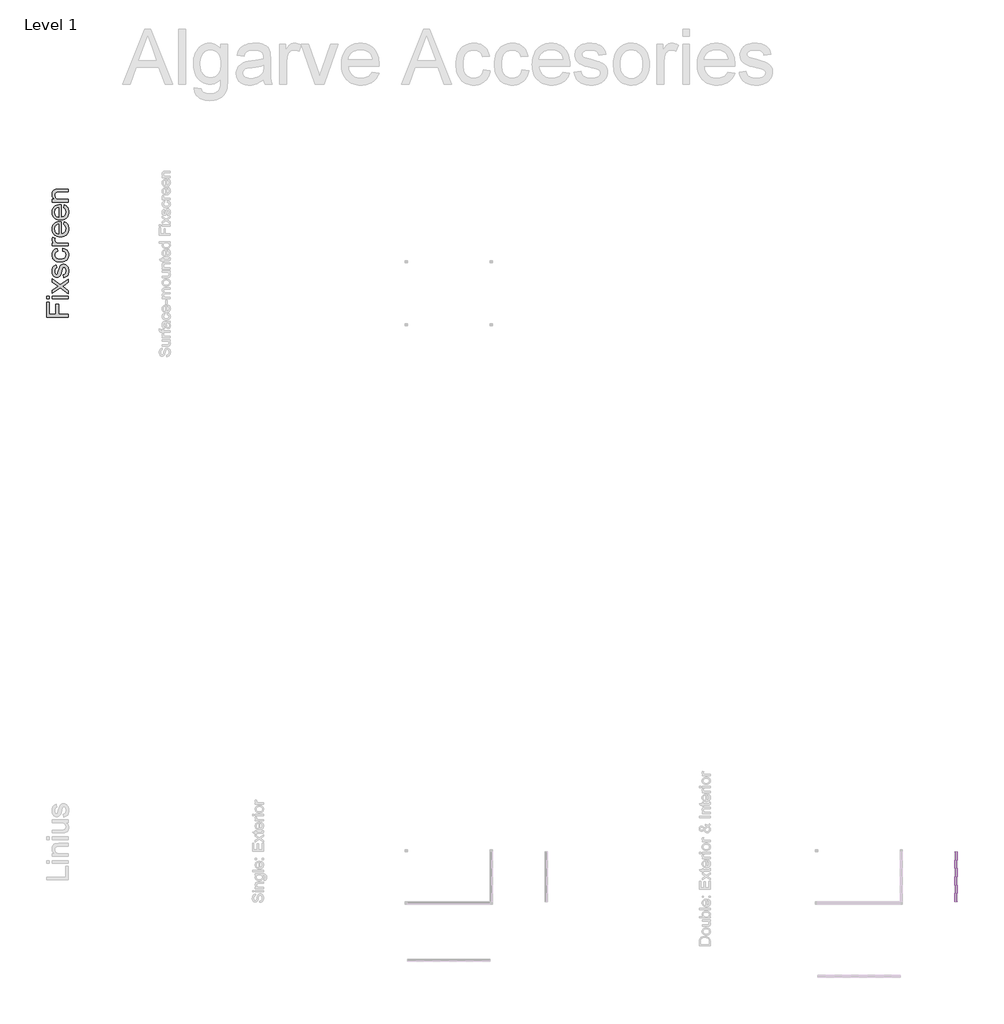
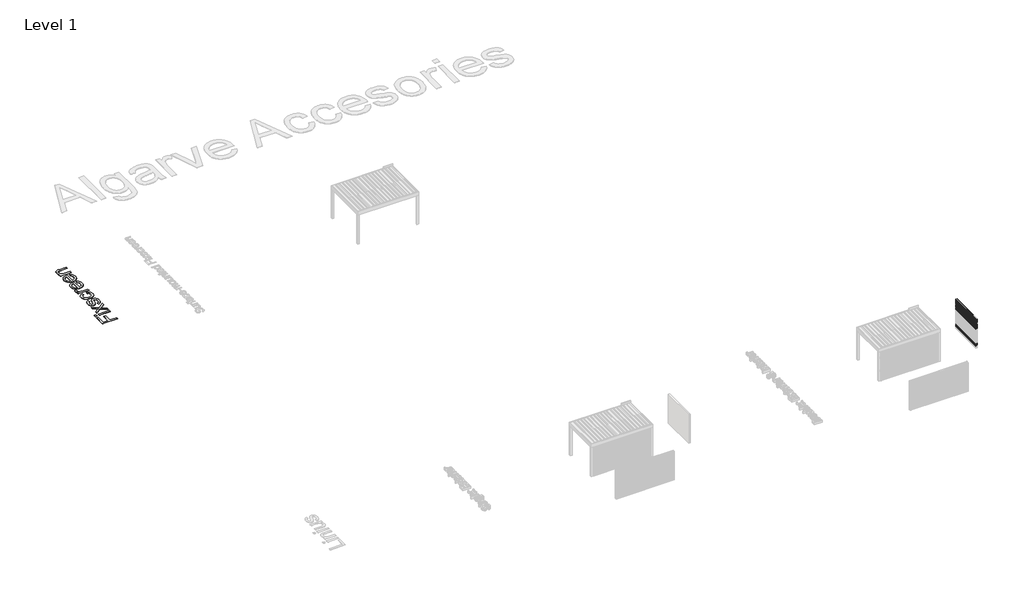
# One storey, part 45 of 47: 47 proxies.
"""IFC4 building model written with IfcOpenShell, lengths in millimetres."""

from ifc_helpers import new_model, si_unit, frame, origin, origin_with_axes, place, context, project, spatial, polyline, outline, extrude, element, save

model = new_model("IFC4")

# Units and contexts
model_context = context("Model", 3, world=origin())
ifc_project = project(units=[si_unit("LENGTHUNIT", "METRE", prefix="MILLI")], contexts=[model_context])

# Site, building, storey
site = spatial("IfcSite", under=ifc_project)
building = spatial("IfcBuilding", under=site)
storey = spatial("IfcBuildingStorey", under=building, Name="Level 1", Elevation=0.0)

# Proxies
placement = place(None, origin())
element("IfcBuildingElementProxy", 1, Name="Wall Sweeps", at=placement, inside=storey, context=model_context, shape_type="SweptSolid", body=[
    extrude(outline(polyline([(109.3, 211574.3971432), (95.8, 211574.3971432), (96.5216933, 211575.6471432), (108.5782281, 211575.6471432), (119.6345698, 211594.7971432), (133.3, 211594.7971432), (133.3, 211593.5471432), (120.3562577, 211593.5471432), (109.3, 211574.3971432)])), frame((0.0, 39632.1593685, 0.0), z_axis=(0.0, 1.0, 0.0), x_axis=(0.0, 0.0, 1.0)), (0.0, 0.0, 1.0), 2280.0),
])
element("IfcBuildingElementProxy", 2, Name="Wall Sweeps", at=placement, inside=storey, context=model_context, shape_type="SweptSolid", body=[
    extrude(outline(polyline([(1309.2, 211574.3971432), (1295.7, 211574.3971432), (1296.4216933, 211575.6471432), (1308.4782281, 211575.6471432), (1319.5345698, 211594.7971432), (1333.2, 211594.7971432), (1333.2, 211593.5471432), (1320.2562577, 211593.5471432), (1309.2, 211574.3971432)])), frame((0.0, 39632.1593685, 0.0), z_axis=(0.0, 1.0, 0.0), x_axis=(0.0, 0.0, 1.0)), (0.0, 0.0, 1.0), 2280.0),
])
element("IfcBuildingElementProxy", 3, Name="Wall Sweeps", at=placement, inside=storey, context=model_context, shape_type="SweptSolid", body=[
    extrude(outline(polyline([(1341.3, 211684.3971432), (1352.3562577, 211665.2471432), (1365.3, 211665.2471432), (1365.3, 211663.9971432), (1351.6345698, 211663.9971432), (1340.5782281, 211683.1471432), (1328.5216933, 211683.1471432), (1327.8, 211684.3971432), (1341.3, 211684.3971432)])), frame((0.0, 39632.1593685, 0.0), z_axis=(0.0, 1.0, 0.0), x_axis=(0.0, 0.0, 1.0)), (0.0, 0.0, 1.0), 2280.0),
])
element("IfcBuildingElementProxy", 4, Name="Wall Sweeps", at=placement, inside=storey, context=model_context, shape_type="SweptSolid", body=[
    extrude(outline(polyline([(1342.5, 211574.3971432), (1329.0, 211574.3971432), (1329.7216933, 211575.6471432), (1341.7782281, 211575.6471432), (1352.8345698, 211594.7971432), (1366.5, 211594.7971432), (1366.5, 211593.5471432), (1353.5562577, 211593.5471432), (1342.5, 211574.3971432)])), frame((0.0, 39632.1593685, 0.0), z_axis=(0.0, 1.0, 0.0), x_axis=(0.0, 0.0, 1.0)), (0.0, 0.0, 1.0), 2280.0),
])
element("IfcBuildingElementProxy", 5, Name="Wall Sweeps", at=placement, inside=storey, context=model_context, shape_type="SweptSolid", body=[
    extrude(outline(polyline([(1374.6, 211684.3971432), (1385.6562577, 211665.2471432), (1398.6, 211665.2471432), (1398.6, 211663.9971432), (1384.9345698, 211663.9971432), (1373.8782281, 211683.1471432), (1361.8216933, 211683.1471432), (1361.1, 211684.3971432), (1374.6, 211684.3971432)])), frame((0.0, 39632.1593685, 0.0), z_axis=(0.0, 1.0, 0.0), x_axis=(0.0, 0.0, 1.0)), (0.0, 0.0, 1.0), 2280.0),
])
element("IfcBuildingElementProxy", 6, Name="Wall Sweeps", at=placement, inside=storey, context=model_context, shape_type="SweptSolid", body=[
    extrude(outline(polyline([(1375.9, 211574.3971432), (1362.4, 211574.3971432), (1363.1216933, 211575.6471432), (1375.1782281, 211575.6471432), (1386.2345698, 211594.7971432), (1399.9, 211594.7971432), (1399.9, 211593.5471432), (1386.9562577, 211593.5471432), (1375.9, 211574.3971432)])), frame((0.0, 39632.1593685, 0.0), z_axis=(0.0, 1.0, 0.0), x_axis=(0.0, 0.0, 1.0)), (0.0, 0.0, 1.0), 2280.0),
])
element("IfcBuildingElementProxy", 7, Name="Wall Sweeps", at=placement, inside=storey, context=model_context, shape_type="SweptSolid", body=[
    extrude(outline(polyline([(1407.9, 211684.3971432), (1418.9562577, 211665.2471432), (1431.9, 211665.2471432), (1431.9, 211663.9971432), (1418.2345698, 211663.9971432), (1407.1782281, 211683.1471432), (1395.1216933, 211683.1471432), (1394.4, 211684.3971432), (1407.9, 211684.3971432)])), frame((0.0, 39632.1593685, 0.0), z_axis=(0.0, 1.0, 0.0), x_axis=(0.0, 0.0, 1.0)), (0.0, 0.0, 1.0), 2280.0),
])
element("IfcBuildingElementProxy", 8, Name="Wall Sweeps", at=placement, inside=storey, context=model_context, shape_type="SweptSolid", body=[
    extrude(outline(polyline([(1441.2, 211684.3971432), (1452.2562577, 211665.2471432), (1465.2, 211665.2471432), (1465.2, 211663.9971432), (1451.5345698, 211663.9971432), (1440.4782281, 211683.1471432), (1428.4216933, 211683.1471432), (1427.7, 211684.3971432), (1441.2, 211684.3971432)])), frame((0.0, 39632.1593685, 0.0), z_axis=(0.0, 1.0, 0.0), x_axis=(0.0, 0.0, 1.0)), (0.0, 0.0, 1.0), 2280.0),
])
element("IfcBuildingElementProxy", 9, Name="Wall Sweeps", at=placement, inside=storey, context=model_context, shape_type="SweptSolid", body=[
    extrude(outline(polyline([(1442.5, 211574.3971432), (1429.0, 211574.3971432), (1429.7216933, 211575.6471432), (1441.7782281, 211575.6471432), (1452.8345698, 211594.7971432), (1466.5, 211594.7971432), (1466.5, 211593.5471432), (1453.5562577, 211593.5471432), (1442.5, 211574.3971432)])), frame((0.0, 39632.1593685, 0.0), z_axis=(0.0, 1.0, 0.0), x_axis=(0.0, 0.0, 1.0)), (0.0, 0.0, 1.0), 2280.0),
])
element("IfcBuildingElementProxy", 10, Name="Wall Sweeps", at=placement, inside=storey, context=model_context, shape_type="SweptSolid", body=[
    extrude(outline(polyline([(1474.5, 211684.3971432), (1485.5562577, 211665.2471432), (1498.5, 211665.2471432), (1498.5, 211663.9971432), (1484.8345698, 211663.9971432), (1473.7782281, 211683.1471432), (1461.7216933, 211683.1471432), (1461.0, 211684.3971432), (1474.5, 211684.3971432)])), frame((0.0, 39632.1593685, 0.0), z_axis=(0.0, 1.0, 0.0), x_axis=(0.0, 0.0, 1.0)), (0.0, 0.0, 1.0), 2280.0),
])
element("IfcBuildingElementProxy", 11, Name="Wall Sweeps", at=placement, inside=storey, context=model_context, shape_type="SweptSolid", body=[
    extrude(outline(polyline([(1474.5, 211574.3971432), (1461.0, 211574.3971432), (1461.7216933, 211575.6471432), (1473.7782281, 211575.6471432), (1484.8345698, 211594.7971432), (1498.5, 211594.7971432), (1498.5, 211593.5471432), (1485.5562577, 211593.5471432), (1474.5, 211574.3971432)])), frame((0.0, 39632.1593685, 0.0), z_axis=(0.0, 1.0, 0.0), x_axis=(0.0, 0.0, 1.0)), (0.0, 0.0, 1.0), 2280.0),
])
element("IfcBuildingElementProxy", 12, Name="Wall Sweeps", at=placement, inside=storey, context=model_context, shape_type="SweptSolid", body=[
    extrude(outline(polyline([(1507.8, 211684.3971432), (1518.8562577, 211665.2471432), (1531.8, 211665.2471432), (1531.8, 211663.9971432), (1518.1345698, 211663.9971432), (1507.0782281, 211683.1471432), (1495.0216933, 211683.1471432), (1494.3, 211684.3971432), (1507.8, 211684.3971432)])), frame((0.0, 39632.1593685, 0.0), z_axis=(0.0, 1.0, 0.0), x_axis=(0.0, 0.0, 1.0)), (0.0, 0.0, 1.0), 2280.0),
])
element("IfcBuildingElementProxy", 13, Name="Wall Sweeps", at=placement, inside=storey, context=model_context, shape_type="SweptSolid", body=[
    extrude(outline(polyline([(1507.8, 211574.3971432), (1494.3, 211574.3971432), (1495.0216933, 211575.6471432), (1507.0782281, 211575.6471432), (1518.1345698, 211594.7971432), (1531.8, 211594.7971432), (1531.8, 211593.5471432), (1518.8562577, 211593.5471432), (1507.8, 211574.3971432)])), frame((0.0, 39632.1593685, 0.0), z_axis=(0.0, 1.0, 0.0), x_axis=(0.0, 0.0, 1.0)), (0.0, 0.0, 1.0), 2280.0),
])
element("IfcBuildingElementProxy", 14, Name="Wall Sweeps", at=placement, inside=storey, context=model_context, shape_type="SweptSolid", body=[
    extrude(outline(polyline([(1541.1, 211684.3971432), (1552.1562577, 211665.2471432), (1565.1, 211665.2471432), (1565.1, 211663.9971432), (1551.4345698, 211663.9971432), (1540.3782281, 211683.1471432), (1528.3216933, 211683.1471432), (1527.6, 211684.3971432), (1541.1, 211684.3971432)])), frame((0.0, 39632.1593685, 0.0), z_axis=(0.0, 1.0, 0.0), x_axis=(0.0, 0.0, 1.0)), (0.0, 0.0, 1.0), 2280.0),
])
element("IfcBuildingElementProxy", 15, Name="Wall Sweeps", at=placement, inside=storey, context=model_context, shape_type="SweptSolid", body=[
    extrude(outline(polyline([(1541.1, 211574.3971432), (1527.6, 211574.3971432), (1528.3216933, 211575.6471432), (1540.3782281, 211575.6471432), (1551.4345698, 211594.7971432), (1565.1, 211594.7971432), (1565.1, 211593.5471432), (1552.1562577, 211593.5471432), (1541.1, 211574.3971432)])), frame((0.0, 39632.1593685, 0.0), z_axis=(0.0, 1.0, 0.0), x_axis=(0.0, 0.0, 1.0)), (0.0, 0.0, 1.0), 2280.0),
])
element("IfcBuildingElementProxy", 16, Name="Wall Sweeps", at=placement, inside=storey, context=model_context, shape_type="SweptSolid", body=[
    extrude(outline(polyline([(1574.4, 211684.3971432), (1585.4562577, 211665.2471432), (1598.4, 211665.2471432), (1598.4, 211663.9971432), (1584.7345698, 211663.9971432), (1573.6782281, 211683.1471432), (1561.6216933, 211683.1471432), (1560.9, 211684.3971432), (1574.4, 211684.3971432)])), frame((0.0, 39632.1593685, 0.0), z_axis=(0.0, 1.0, 0.0), x_axis=(0.0, 0.0, 1.0)), (0.0, 0.0, 1.0), 2280.0),
])
element("IfcBuildingElementProxy", 17, Name="Wall Sweeps", at=placement, inside=storey, context=model_context, shape_type="SweptSolid", body=[
    extrude(outline(polyline([(1574.4, 211574.3971432), (1560.9, 211574.3971432), (1561.6216933, 211575.6471432), (1573.6782281, 211575.6471432), (1584.7345698, 211594.7971432), (1598.4, 211594.7971432), (1598.4, 211593.5471432), (1585.4562577, 211593.5471432), (1574.4, 211574.3971432)])), frame((0.0, 39632.1593685, 0.0), z_axis=(0.0, 1.0, 0.0), x_axis=(0.0, 0.0, 1.0)), (0.0, 0.0, 1.0), 2280.0),
])
element("IfcBuildingElementProxy", 18, Name="Wall Sweeps", at=placement, inside=storey, context=model_context, shape_type="SweptSolid", body=[
    extrude(outline(polyline([(1607.7, 211684.3971432), (1618.7562577, 211665.2471432), (1631.7, 211665.2471432), (1631.7, 211663.9971432), (1618.0345698, 211663.9971432), (1606.9782281, 211683.1471432), (1594.9216933, 211683.1471432), (1594.2, 211684.3971432), (1607.7, 211684.3971432)])), frame((0.0, 39632.1593685, 0.0), z_axis=(0.0, 1.0, 0.0), x_axis=(0.0, 0.0, 1.0)), (0.0, 0.0, 1.0), 2280.0),
])
element("IfcBuildingElementProxy", 19, Name="Wall Sweeps", at=placement, inside=storey, context=model_context, shape_type="SweptSolid", body=[
    extrude(outline(polyline([(1607.7, 211574.3971432), (1594.2, 211574.3971432), (1594.9216933, 211575.6471432), (1606.9782281, 211575.6471432), (1618.0345698, 211594.7971432), (1631.7, 211594.7971432), (1631.7, 211593.5471432), (1618.7562577, 211593.5471432), (1607.7, 211574.3971432)])), frame((0.0, 39632.1593685, 0.0), z_axis=(0.0, 1.0, 0.0), x_axis=(0.0, 0.0, 1.0)), (0.0, 0.0, 1.0), 2280.0),
])
element("IfcBuildingElementProxy", 20, Name="Wall Sweeps", at=placement, inside=storey, context=model_context, shape_type="SweptSolid", body=[
    extrude(outline(polyline([(142.7, 211574.3971432), (129.2, 211574.3971432), (129.9216933, 211575.6471432), (141.9782281, 211575.6471432), (153.0345698, 211594.7971432), (166.7, 211594.7971432), (166.7, 211593.5471432), (153.7562577, 211593.5471432), (142.7, 211574.3971432)])), frame((0.0, 39632.1593685, 0.0), z_axis=(0.0, 1.0, 0.0), x_axis=(0.0, 0.0, 1.0)), (0.0, 0.0, 1.0), 2280.0),
])
element("IfcBuildingElementProxy", 21, Name="Wall Sweeps", at=placement, inside=storey, context=model_context, shape_type="SweptSolid", body=[
    extrude(outline(polyline([(1674.3, 211684.3971432), (1685.3562577, 211665.2471432), (1698.3, 211665.2471432), (1698.3, 211663.9971432), (1684.6345698, 211663.9971432), (1673.5782281, 211683.1471432), (1661.5216933, 211683.1471432), (1660.8, 211684.3971432), (1674.3, 211684.3971432)])), frame((0.0, 39632.1593685, 0.0), z_axis=(0.0, 1.0, 0.0), x_axis=(0.0, 0.0, 1.0)), (0.0, 0.0, 1.0), 2280.0),
])
element("IfcBuildingElementProxy", 22, Name="Wall Sweeps", at=placement, inside=storey, context=model_context, shape_type="SweptSolid", body=[
    extrude(outline(polyline([(1674.3, 211574.3971432), (1660.8, 211574.3971432), (1661.5216933, 211575.6471432), (1673.5782281, 211575.6471432), (1684.6345698, 211594.7971432), (1698.3, 211594.7971432), (1698.3, 211593.5471432), (1685.3562577, 211593.5471432), (1674.3, 211574.3971432)])), frame((0.0, 39632.1593685, 0.0), z_axis=(0.0, 1.0, 0.0), x_axis=(0.0, 0.0, 1.0)), (0.0, 0.0, 1.0), 2280.0),
])
element("IfcBuildingElementProxy", 23, Name="Wall Sweeps", at=placement, inside=storey, context=model_context, shape_type="SweptSolid", body=[
    extrude(outline(polyline([(1707.7, 211574.3971432), (1694.2, 211574.3971432), (1694.9216933, 211575.6471432), (1706.9782281, 211575.6471432), (1718.0345698, 211594.7971432), (1731.7, 211594.7971432), (1731.7, 211593.5471432), (1718.7562577, 211593.5471432), (1707.7, 211574.3971432)])), frame((0.0, 39632.1593685, 0.0), z_axis=(0.0, 1.0, 0.0), x_axis=(0.0, 0.0, 1.0)), (0.0, 0.0, 1.0), 2280.0),
])
element("IfcBuildingElementProxy", 24, Name="Wall Sweeps", at=placement, inside=storey, context=model_context, shape_type="SweptSolid", body=[
    extrude(outline(polyline([(1740.9, 211684.3971432), (1751.9562577, 211665.2471432), (1764.9, 211665.2471432), (1764.9, 211663.9971432), (1751.2345698, 211663.9971432), (1740.1782281, 211683.1471432), (1728.1216933, 211683.1471432), (1727.4, 211684.3971432), (1740.9, 211684.3971432)])), frame((0.0, 39632.1593685, 0.0), z_axis=(0.0, 1.0, 0.0), x_axis=(0.0, 0.0, 1.0)), (0.0, 0.0, 1.0), 2280.0),
])
element("IfcBuildingElementProxy", 25, Name="Wall Sweeps", at=placement, inside=storey, context=model_context, shape_type="SweptSolid", body=[
    extrude(outline(polyline([(1740.9, 211574.3971432), (1727.4, 211574.3971432), (1728.1216933, 211575.6471432), (1740.1782281, 211575.6471432), (1751.2345698, 211594.7971432), (1764.9, 211594.7971432), (1764.9, 211593.5471432), (1751.9562577, 211593.5471432), (1740.9, 211574.3971432)])), frame((0.0, 39632.1593685, 0.0), z_axis=(0.0, 1.0, 0.0), x_axis=(0.0, 0.0, 1.0)), (0.0, 0.0, 1.0), 2280.0),
])
element("IfcBuildingElementProxy", 26, Name="Wall Sweeps", at=placement, inside=storey, context=model_context, shape_type="SweptSolid", body=[
    extrude(outline(polyline([(1774.2, 211684.3971432), (1785.2562577, 211665.2471432), (1798.2, 211665.2471432), (1798.2, 211663.9971432), (1784.5345698, 211663.9971432), (1773.4782281, 211683.1471432), (1761.4216933, 211683.1471432), (1760.7, 211684.3971432), (1774.2, 211684.3971432)])), frame((0.0, 39632.1593685, 0.0), z_axis=(0.0, 1.0, 0.0), x_axis=(0.0, 0.0, 1.0)), (0.0, 0.0, 1.0), 2280.0),
])
element("IfcBuildingElementProxy", 27, Name="Wall Sweeps", at=placement, inside=storey, context=model_context, shape_type="SweptSolid", body=[
    extrude(outline(polyline([(1774.2, 211574.3971432), (1760.7, 211574.3971432), (1761.4216933, 211575.6471432), (1773.4782281, 211575.6471432), (1784.5345698, 211594.7971432), (1798.2, 211594.7971432), (1798.2, 211593.5471432), (1785.2562577, 211593.5471432), (1774.2, 211574.3971432)])), frame((0.0, 39632.1593685, 0.0), z_axis=(0.0, 1.0, 0.0), x_axis=(0.0, 0.0, 1.0)), (0.0, 0.0, 1.0), 2280.0),
])
element("IfcBuildingElementProxy", 28, Name="Wall Sweeps", at=placement, inside=storey, context=model_context, shape_type="SweptSolid", body=[
    extrude(outline(polyline([(1807.5, 211684.3971432), (1818.5562577, 211665.2471432), (1831.5, 211665.2471432), (1831.5, 211663.9971432), (1817.8345698, 211663.9971432), (1806.7782281, 211683.1471432), (1794.7216933, 211683.1471432), (1794.0, 211684.3971432), (1807.5, 211684.3971432)])), frame((0.0, 39632.1593685, 0.0), z_axis=(0.0, 1.0, 0.0), x_axis=(0.0, 0.0, 1.0)), (0.0, 0.0, 1.0), 2280.0),
])
element("IfcBuildingElementProxy", 29, Name="Wall Sweeps", at=placement, inside=storey, context=model_context, shape_type="SweptSolid", body=[
    extrude(outline(polyline([(1807.5, 211574.3971432), (1794.0, 211574.3971432), (1794.7216933, 211575.6471432), (1806.7782281, 211575.6471432), (1817.8345698, 211594.7971432), (1831.5, 211594.7971432), (1831.5, 211593.5471432), (1818.5562577, 211593.5471432), (1807.5, 211574.3971432)])), frame((0.0, 39632.1593685, 0.0), z_axis=(0.0, 1.0, 0.0), x_axis=(0.0, 0.0, 1.0)), (0.0, 0.0, 1.0), 2280.0),
])
element("IfcBuildingElementProxy", 30, Name="Wall Sweeps", at=placement, inside=storey, context=model_context, shape_type="SweptSolid", body=[
    extrude(outline(polyline([(1840.8, 211684.3971432), (1851.8562577, 211665.2471432), (1864.8, 211665.2471432), (1864.8, 211663.9971432), (1851.1345698, 211663.9971432), (1840.0782281, 211683.1471432), (1828.0216933, 211683.1471432), (1827.3, 211684.3971432), (1840.8, 211684.3971432)])), frame((0.0, 39632.1593685, 0.0), z_axis=(0.0, 1.0, 0.0), x_axis=(0.0, 0.0, 1.0)), (0.0, 0.0, 1.0), 2280.0),
])
element("IfcBuildingElementProxy", 31, Name="Wall Sweeps", at=placement, inside=storey, context=model_context, shape_type="SweptSolid", body=[
    extrude(outline(polyline([(1840.8, 211574.3971432), (1827.3, 211574.3971432), (1828.0216933, 211575.6471432), (1840.0782281, 211575.6471432), (1851.1345698, 211594.7971432), (1864.8, 211594.7971432), (1864.8, 211593.5471432), (1851.8562577, 211593.5471432), (1840.8, 211574.3971432)])), frame((0.0, 39632.1593685, 0.0), z_axis=(0.0, 1.0, 0.0), x_axis=(0.0, 0.0, 1.0)), (0.0, 0.0, 1.0), 2280.0),
])
element("IfcBuildingElementProxy", 32, Name="Wall Sweeps", at=placement, inside=storey, context=model_context, shape_type="SweptSolid", body=[
    extrude(outline(polyline([(1874.1, 211684.3971432), (1885.1562577, 211665.2471432), (1898.1, 211665.2471432), (1898.1, 211663.9971432), (1884.4345698, 211663.9971432), (1873.3782281, 211683.1471432), (1861.3216933, 211683.1471432), (1860.6, 211684.3971432), (1874.1, 211684.3971432)])), frame((0.0, 39632.1593685, 0.0), z_axis=(0.0, 1.0, 0.0), x_axis=(0.0, 0.0, 1.0)), (0.0, 0.0, 1.0), 2280.0),
])
element("IfcBuildingElementProxy", 33, Name="Wall Sweeps", at=placement, inside=storey, context=model_context, shape_type="SweptSolid", body=[
    extrude(outline(polyline([(1874.1, 211574.3971432), (1860.6, 211574.3971432), (1861.3216933, 211575.6471432), (1873.3782281, 211575.6471432), (1884.4345698, 211594.7971432), (1898.1, 211594.7971432), (1898.1, 211593.5471432), (1885.1562577, 211593.5471432), (1874.1, 211574.3971432)])), frame((0.0, 39632.1593685, 0.0), z_axis=(0.0, 1.0, 0.0), x_axis=(0.0, 0.0, 1.0)), (0.0, 0.0, 1.0), 2280.0),
])
element("IfcBuildingElementProxy", 34, Name="Wall Sweeps", at=placement, inside=storey, context=model_context, shape_type="SweptSolid", body=[
    extrude(outline(polyline([(1907.4, 211684.3971432), (1918.4562577, 211665.2471432), (1931.4, 211665.2471432), (1931.4, 211663.9971432), (1917.7345698, 211663.9971432), (1906.6782281, 211683.1471432), (1894.6216933, 211683.1471432), (1893.9, 211684.3971432), (1907.4, 211684.3971432)])), frame((0.0, 39632.1593685, 0.0), z_axis=(0.0, 1.0, 0.0), x_axis=(0.0, 0.0, 1.0)), (0.0, 0.0, 1.0), 2280.0),
])
element("IfcBuildingElementProxy", 35, Name="Wall Sweeps", at=placement, inside=storey, context=model_context, shape_type="SweptSolid", body=[
    extrude(outline(polyline([(1907.4, 211574.3971432), (1893.9, 211574.3971432), (1894.6216933, 211575.6471432), (1906.6782281, 211575.6471432), (1917.7345698, 211594.7971432), (1931.4, 211594.7971432), (1931.4, 211593.5471432), (1918.4562577, 211593.5471432), (1907.4, 211574.3971432)])), frame((0.0, 39632.1593685, 0.0), z_axis=(0.0, 1.0, 0.0), x_axis=(0.0, 0.0, 1.0)), (0.0, 0.0, 1.0), 2280.0),
])
element("IfcBuildingElementProxy", 36, Name="Wall Sweeps", at=placement, inside=storey, context=model_context, shape_type="SweptSolid", body=[
    extrude(outline(polyline([(1940.7, 211684.3971432), (1951.7562577, 211665.2471432), (1964.7, 211665.2471432), (1964.7, 211663.9971432), (1951.0345698, 211663.9971432), (1939.9782281, 211683.1471432), (1927.9216933, 211683.1471432), (1927.2, 211684.3971432), (1940.7, 211684.3971432)])), frame((0.0, 39632.1593685, 0.0), z_axis=(0.0, 1.0, 0.0), x_axis=(0.0, 0.0, 1.0)), (0.0, 0.0, 1.0), 2280.0),
])
element("IfcBuildingElementProxy", 37, Name="Wall Sweeps", at=placement, inside=storey, context=model_context, shape_type="SweptSolid", body=[
    extrude(outline(polyline([(1940.7, 211575.3971432), (1927.2, 211575.3971432), (1927.9216933, 211576.6471432), (1939.9782281, 211576.6471432), (1951.0345698, 211595.7971432), (1964.7, 211595.7971432), (1964.7, 211594.5471432), (1951.7562577, 211594.5471432), (1940.7, 211575.3971432)])), frame((0.0, 39632.1593685, 0.0), z_axis=(0.0, 1.0, 0.0), x_axis=(0.0, 0.0, 1.0)), (0.0, 0.0, 1.0), 2280.0),
])
element("IfcBuildingElementProxy", 38, Name="Wall Sweeps", at=placement, inside=storey, context=model_context, shape_type="SweptSolid", body=[
    extrude(outline(polyline([(1974.0, 211684.3971432), (1985.0562577, 211665.2471432), (1998.0, 211665.2471432), (1998.0, 211663.9971432), (1984.3345698, 211663.9971432), (1973.2782281, 211683.1471432), (1961.2216933, 211683.1471432), (1960.5, 211684.3971432), (1974.0, 211684.3971432)])), frame((0.0, 39632.1593685, 0.0), z_axis=(0.0, 1.0, 0.0), x_axis=(0.0, 0.0, 1.0)), (0.0, 0.0, 1.0), 2280.0),
])
element("IfcBuildingElementProxy", 39, Name="Wall Sweeps", at=placement, inside=storey, context=model_context, shape_type="SweptSolid", body=[
    extrude(outline(polyline([(1974.0, 211574.3971432), (1960.5, 211574.3971432), (1961.2216933, 211575.6471432), (1973.2782281, 211575.6471432), (1984.3345698, 211594.7971432), (1998.0, 211594.7971432), (1998.0, 211593.5471432), (1985.0562577, 211593.5471432), (1974.0, 211574.3971432)])), frame((0.0, 39632.1593685, 0.0), z_axis=(0.0, 1.0, 0.0), x_axis=(0.0, 0.0, 1.0)), (0.0, 0.0, 1.0), 2280.0),
])
element("IfcBuildingElementProxy", 40, Name="Wall Sweeps", at=placement, inside=storey, context=model_context, shape_type="SweptSolid", body=[
    extrude(outline(polyline([(176.0, 211684.3971432), (187.0562577, 211665.2471432), (200.0, 211665.2471432), (200.0, 211663.9971432), (186.3345698, 211663.9971432), (175.2782281, 211683.1471432), (163.2216933, 211683.1471432), (162.5, 211684.3971432), (176.0, 211684.3971432)])), frame((0.0, 39632.1593685, 0.0), z_axis=(0.0, 1.0, 0.0), x_axis=(0.0, 0.0, 1.0)), (0.0, 0.0, 1.0), 2280.0),
])
element("IfcBuildingElementProxy", 41, Name="Wall Sweeps", at=placement, inside=storey, context=model_context, shape_type="SweptSolid", body=[
    extrude(outline(polyline([(176.0, 211574.3971432), (162.5, 211574.3971432), (163.2216933, 211575.6471432), (175.2782281, 211575.6471432), (186.3345698, 211594.7971432), (200.0, 211594.7971432), (200.0, 211593.5471432), (187.0562577, 211593.5471432), (176.0, 211574.3971432)])), frame((0.0, 39632.1593685, 0.0), z_axis=(0.0, 1.0, 0.0), x_axis=(0.0, 0.0, 1.0)), (0.0, 0.0, 1.0), 2280.0),
])
element("IfcBuildingElementProxy", 42, Name="Wall Sweeps", at=placement, inside=storey, context=model_context, shape_type="SweptSolid", body=[
    extrude(outline(polyline([(209.1, 211684.3971432), (220.1562577, 211665.2471432), (233.1, 211665.2471432), (233.1, 211663.9971432), (219.4345698, 211663.9971432), (208.3782281, 211683.1471432), (196.3216933, 211683.1471432), (195.6, 211684.3971432), (209.1, 211684.3971432)])), frame((0.0, 39632.1593685, 0.0), z_axis=(0.0, 1.0, 0.0), x_axis=(0.0, 0.0, 1.0)), (0.0, 0.0, 1.0), 2280.0),
])
element("IfcBuildingElementProxy", 43, Name="Wall Sweeps", at=placement, inside=storey, context=model_context, shape_type="SweptSolid", body=[
    extrude(outline(polyline([(242.4, 211684.3971432), (253.4562577, 211665.2471432), (266.4, 211665.2471432), (266.4, 211663.9971432), (252.7345698, 211663.9971432), (241.6782281, 211683.1471432), (229.6216933, 211683.1471432), (228.9, 211684.3971432), (242.4, 211684.3971432)])), frame((0.0, 39632.1593685, 0.0), z_axis=(0.0, 1.0, 0.0), x_axis=(0.0, 0.0, 1.0)), (0.0, 0.0, 1.0), 2280.0),
])
element("IfcBuildingElementProxy", 44, Name="Wall Sweeps", at=placement, inside=storey, context=model_context, shape_type="SweptSolid", body=[
    extrude(outline(polyline([(242.6, 211574.3971432), (229.1, 211574.3971432), (229.8216933, 211575.6471432), (241.8782281, 211575.6471432), (252.9345698, 211594.7971432), (266.6, 211594.7971432), (266.6, 211593.5471432), (253.6562577, 211593.5471432), (242.6, 211574.3971432)])), frame((0.0, 39632.1593685, 0.0), z_axis=(0.0, 1.0, 0.0), x_axis=(0.0, 0.0, 1.0)), (0.0, 0.0, 1.0), 2280.0),
])
element("IfcBuildingElementProxy", 45, Name="Wall Sweeps", at=placement, inside=storey, context=model_context, shape_type="SweptSolid", body=[
    extrude(outline(polyline([(275.7, 211684.3971432), (286.7562577, 211665.2471432), (299.7, 211665.2471432), (299.7, 211663.9971432), (286.0345698, 211663.9971432), (274.9782281, 211683.1471432), (262.9216933, 211683.1471432), (262.2, 211684.3971432), (275.7, 211684.3971432)])), frame((0.0, 39632.1593685, 0.0), z_axis=(0.0, 1.0, 0.0), x_axis=(0.0, 0.0, 1.0)), (0.0, 0.0, 1.0), 2280.0),
])
element("IfcBuildingElementProxy", 46, Name="Wall Sweeps", at=placement, inside=storey, context=model_context, shape_type="SweptSolid", body=[
    extrude(outline(polyline([(276.0, 211574.3971432), (262.5, 211574.3971432), (263.2216933, 211575.6471432), (275.2782281, 211575.6471432), (286.3345698, 211594.7971432), (300.0, 211594.7971432), (300.0, 211593.5471432), (287.0562577, 211593.5471432), (276.0, 211574.3971432)])), frame((0.0, 39632.1593685, 0.0), z_axis=(0.0, 1.0, 0.0), x_axis=(0.0, 0.0, 1.0)), (0.0, 0.0, 1.0), 2280.0),
])
element("IfcBuildingElementProxy", 47, Name="1000mm Arial", ObjectType="1000mm Arial", at=placement, inside=storey, context=model_context, shape_type="SweptSolid", body=[
    extrude(outline(polyline([(170912.6292126, 66433.7206417), (169908.0661111, 66433.7206417), (169908.0661111, 67108.6614755), (170033.6364988, 67108.6614755), (170033.6364988, 66559.2910294), (170331.8661696, 66559.2910294), (170331.8661696, 67030.1799832), (170457.4365573, 67030.1799832), (170457.4365573, 66559.2910294), (170912.6292126, 66559.2910294), (170912.6292126, 66433.7206417)])), origin_with_axes(), (0.0, 0.0, 1.0), 5.0),
    extrude(outline(polyline([(170033.6364988, 67265.6244601), (169908.0661111, 67265.6244601), (169908.0661111, 67391.1948478), (170033.6364988, 67391.1948478), (170033.6364988, 67265.6244601)])), origin_with_axes(), (0.0, 0.0, 1.0), 5.0),
    extrude(outline(polyline([(170912.6292126, 67265.6244601), (170174.903185, 67265.6244601), (170174.903185, 67391.1948478), (170912.6292126, 67391.1948478), (170912.6292126, 67265.6244601)])), origin_with_axes(), (0.0, 0.0, 1.0), 5.0),
    extrude(outline(polyline([(170912.6292126, 67501.0689371), (170541.8041615, 67769.3775389), (170174.903185, 67516.7652355), (170174.903185, 67667.8421082), (170351.4865427, 67789.7336759), (170434.8731282, 67846.6327579), (170366.6923318, 67895.9289452), (170174.903185, 68034.7430847), (170174.903185, 68185.8199574), (170541.8041615, 67920.4544116), (170912.6292126, 68176.0097709), (170912.6292126, 68024.9328982), (170689.6927236, 67871.1582242), (170648.9804494, 67842.9539379), (170912.6292126, 67652.1458097), (170912.6292126, 67501.0689371)])), origin_with_axes(), (0.0, 0.0, 1.0), 5.0),
    extrude(outline(polyline([(170692.8810342, 68238.7949647), (170677.1847357, 68364.3653524), (170705.8182177, 68371.9529186), (170730.895507, 68384.1696665), (170752.4166037, 68401.0155962), (170770.3815078, 68422.4907076), (170784.5449647, 68448.6563145), (170794.6617195, 68479.5737306), (170800.7317724, 68515.2429557), (170802.7551234, 68555.6639899), (170800.900385, 68596.0390389), (170795.3361698, 68630.8345442), (170786.0624779, 68660.050506), (170773.0793091, 68683.6869242), (170757.5976085, 68701.9277398), (170740.8283209, 68714.9568938), (170722.7714463, 68722.7743862), (170703.4269847, 68725.380217), (170686.4737561, 68722.7590578), (170671.4212511, 68714.8955801), (170658.2694698, 68701.7897841), (170647.0184121, 68683.4416696), (170631.076859, 68636.4140878), (170611.2112313, 68554.1924619), (170578.0711949, 68439.5972204), (170549.7749381, 68365.1011164), (170535.5884886, 68339.5256535), (170518.9035073, 68317.2458002), (170499.7199941, 68298.2615564), (170478.037949, 68282.5729221), (170454.5088297, 68270.2871963), (170429.784094, 68261.5116779), (170403.8637417, 68256.2463669), (170376.747773, 68254.4912632), (170328.0953791, 68260.1321204), (170283.1831189, 68277.0546922), (170243.7890886, 68303.7261369), (170211.6913845, 68338.6136127), (170191.4885316, 68373.2864908), (170174.535303, 68418.4440057), (170163.0389906, 68470.6525922), (170159.2068865, 68526.4786849), (170160.7473924, 68568.6778155), (170165.3689099, 68608.2098015), (170173.0714392, 68645.0746431), (170183.8549802, 68679.2723403), (170197.2673446, 68709.9904869), (170212.8563442, 68736.4166769), (170230.6219788, 68758.5509102), (170250.5642487, 68776.393187), (170273.3805966, 68790.8632121), (170299.7684655, 68802.8806907), (170329.7278555, 68812.4456225), (170363.2587665, 68819.5580078), (170378.955065, 68693.9876201), (170357.978127, 68688.0018734), (170339.4384073, 68678.1380375), (170323.3359058, 68664.3961121), (170309.6706225, 68646.7760974), (170298.7797827, 68625.2013512), (170291.0006113, 68599.5952315), (170286.3331085, 68569.9577382), (170284.7772742, 68536.2888715), (170286.2641306, 68497.2320663), (170290.7246998, 68464.1840004), (170298.1589818, 68437.1446738), (170308.5669766, 68416.1140864), (170320.9523371, 68400.3411458), (170334.3187162, 68389.0747597), (170348.666114, 68382.3149281), (170363.9945305, 68380.0616509), (170383.3083353, 68383.8017845), (170400.5374754, 68395.0221853), (170415.9272055, 68414.2133627), (170428.2512523, 68441.8658261), (170454.9840106, 68550.0231326), (170487.7868219, 68660.970211), (170514.0903845, 68734.3320122), (170526.9202691, 68760.1450655), (170542.3559845, 68783.0150629), (170560.3975307, 68802.9420043), (170581.0449077, 68819.9258898), (170604.3287723, 68833.4992025), (170630.2797813, 68843.194426), (170658.8979349, 68849.01156), (170690.1832329, 68850.9506047), (170721.6064866, 68848.6743348), (170752.1100354, 68841.8455253), (170781.6938792, 68830.4641761), (170810.358018, 68814.5302872), (170836.9604848, 68794.3044416), (170860.3593125, 68770.0472226), (170880.5545012, 68741.75863), (170897.5460508, 68709.4386639), (170911.0120647, 68673.9687082), (170920.630646, 68636.2301468), (170926.4017948, 68596.2229799), (170928.3255111, 68553.9472072), (170924.6160343, 68486.3642191), (170913.487604, 68427.3344872), (170894.94022, 68376.8580118), (170868.9738826, 68334.9347928), (170835.7112188, 68300.6911104), (170795.2748562, 68273.2532449), (170747.6647946, 68252.6211964), (170692.8810342, 68238.7949647)])), origin_with_axes(), (0.0, 0.0, 1.0), 5.0),
    extrude(outline(polyline([(170645.7921388, 69463.1062447), (170661.4884373, 69588.6766323), (170720.7404311, 69575.0190133), (170773.1712796, 69553.6665291), (170818.7809828, 69524.6191799), (170857.5695407, 69487.8769657), (170888.5252778, 69444.9880564), (170910.6365185, 69397.5006222), (170923.903263, 69345.414663), (170928.3255111, 69288.7301789), (170926.7830892, 69252.6068495), (170922.1558235, 69218.3037695), (170914.4437139, 69185.820939), (170903.6467606, 69155.1583579), (170889.7649634, 69126.3160262), (170872.7983225, 69099.2939441), (170852.7468377, 69074.0921113), (170829.6105091, 69050.7105281), (170803.5924382, 69029.6435357), (170774.8957265, 69011.3854756), (170743.520374, 68995.9363479), (170709.4663808, 68983.2961525), (170672.7337468, 68973.4648893), (170633.322472, 68966.4425585), (170546.4640001, 68960.8246939), (170488.7295195, 68963.2235911), (170434.7198441, 68970.4202826), (170384.4349739, 68982.4147685), (170337.8749088, 68999.2070487), (170295.9746824, 69020.9120865), (170259.669328, 69047.6448448), (170228.9588456, 69079.4053237), (170203.8432353, 69116.1935232), (170184.3148327, 69156.3463101), (170170.3659737, 69198.2005513), (170161.9966583, 69241.7562467), (170159.2068865, 69287.0133963), (170163.0389906, 69342.7245259), (170174.535303, 69393.1166951), (170193.6958236, 69438.1899037), (170220.5205524, 69477.9441518), (170254.3963528, 69511.7049891), (170294.7100881, 69538.7979652), (170341.4617583, 69559.2230801), (170394.6513634, 69572.9803339), (170410.3476619, 69447.4099462), (170381.016737, 69437.6074239), (170355.5639014, 69424.6319193), (170333.9891553, 69408.4834326), (170316.2924985, 69389.1619636), (170302.5045879, 69367.1580218), (170292.6560803, 69342.9621164), (170286.7469757, 69316.5742475), (170284.7772742, 69287.994415), (170288.6553636, 69245.3277677), (170300.2896317, 69206.8457782), (170319.6800785, 69172.5484463), (170346.8267041, 69142.4357722), (170382.3579734, 69117.9179701), (170426.9023517, 69100.4052543), (170480.4598388, 69089.8976248), (170543.0304348, 69086.3950816), (170606.5437284, 69089.8209827), (170660.7220164, 69100.0986859), (170705.5652988, 69117.2281913), (170741.0735756, 69141.2094989), (170768.0592527, 69170.7243648), (170787.3347365, 69204.4545452), (170798.9000267, 69242.4000402), (170802.7551234, 69284.5608497), (170800.348562, 69318.5362848), (170793.1288779, 69349.5839923), (170781.096071, 69377.7039723), (170764.2501413, 69402.8962248), (170742.4071478, 69424.4556425), (170715.3831496, 69441.6771184), (170683.1781466, 69454.5606525), (170645.7921388, 69463.1062447)])), origin_with_axes(), (0.0, 0.0, 1.0), 5.0),
    extrude(outline(polyline([(170912.6292126, 69698.5507216), (170174.903185, 69698.5507216), (170174.903185, 69808.4248108), (170284.0415102, 69808.4248108), (170220.765807, 69849.0144576), (170198.8768283, 69868.1136645), (170183.4870982, 69886.4157938), (170165.2769394, 69923.9397573), (170159.2068865, 69964.8972861), (170161.6287763, 69996.0446283), (170168.8944457, 70027.4372253), (170181.0038947, 70059.0750768), (170197.9571233, 70090.9581831), (170310.5290139, 70049.0196356), (170291.2152091, 70004.8737962), (170286.3867579, 69982.8008765), (170284.7772742, 69960.7279568), (170286.3254443, 69941.4831299), (170290.9699545, 69923.2346501), (170298.7108048, 69905.9825174), (170309.5479952, 69889.7267317), (170323.1289722, 69875.0804298), (170339.1011822, 69862.6567483), (170378.219301, 69844.4772463), (170448.3621347, 69829.2101435), (170524.8815897, 69824.1211093), (170912.6292126, 69824.1211093), (170912.6292126, 69698.5507216)])), origin_with_axes(), (0.0, 0.0, 1.0), 5.0),
    extrude(outline(polyline([(170692.8810342, 70685.9459966), (170708.5773327, 70809.0638377), (170757.8888484, 70790.1868928), (170801.3449091, 70764.7034004), (170838.9455147, 70732.6133606), (170870.6906652, 70693.9167732), (170895.9059103, 70649.0121772), (170913.9167996, 70598.2981113), (170924.7233332, 70541.7745756), (170928.3255111, 70479.44157), (170926.7715929, 70439.4229067), (170922.1098382, 70401.5272291), (170914.3402471, 70365.7545372), (170903.4628196, 70332.1048309), (170889.4775556, 70300.5781104), (170872.3844552, 70271.1743755), (170852.1835184, 70243.8936263), (170828.8747451, 70218.7358628), (170802.7608716, 70196.145609), (170774.1446341, 70176.5673891), (170743.0260326, 70160.001203), (170709.4050671, 70146.4470507), (170673.2817377, 70135.9049323), (170634.6560442, 70128.3748477), (170593.5279868, 70123.8567969), (170549.8975654, 70122.35078), (170504.7822036, 70123.8721254), (170462.2650085, 70128.4361614), (170422.3459799, 70136.042888), (170385.0251179, 70146.6923054), (170350.3024225, 70160.3844134), (170318.1778937, 70177.1192121), (170288.6515315, 70196.8967014), (170261.7233358, 70219.7168814), (170237.696043, 70244.9627833), (170216.8723893, 70272.0174384), (170199.2523745, 70300.8808466), (170184.8359989, 70331.5530079), (170173.6232622, 70364.0339224), (170165.6141646, 70398.3235901), (170160.808706, 70434.4220108), (170159.2068865, 70472.3291848), (170160.8048739, 70508.996673), (170165.5988362, 70543.9512107), (170173.5887733, 70577.1927979), (170184.7746852, 70608.7214345), (170199.1565719, 70638.5371206), (170216.7344335, 70666.6398561), (170237.5082699, 70693.0296411), (170261.4780812, 70717.7064755), (170288.3449631, 70740.0380623), (170317.8100117, 70759.3921041), (170349.8732268, 70775.7686011), (170384.5346086, 70789.1675531), (170421.7941569, 70799.5889603), (170461.6518718, 70807.0328225), (170549.1618014, 70812.9879123), (170583.006945, 70812.2521483), (170583.006945, 70247.9211677), (170633.1155384, 70255.1945013), (170677.0007947, 70269.6568623), (170714.662714, 70291.3082505), (170746.1012962, 70320.1486661), (170770.8873456, 70354.5839537), (170788.5916666, 70393.019958), (170799.2142592, 70435.456679), (170802.7551234, 70481.8941166), (170801.1149829, 70516.6283083), (170796.1945612, 70548.7260124), (170787.9938584, 70578.1872289), (170776.5128744, 70605.0119577), (170761.445041, 70629.2001989), (170742.4837899, 70650.7519524), (170719.6291209, 70669.6672183), (170692.8810342, 70685.9459966)]), holes=[polyline([(170457.4365573, 70247.9211677), (170457.4365573, 70687.4175246), (170421.9052879, 70680.9642613), (170391.0951708, 70670.4336392), (170365.006206, 70655.8256583), (170343.6383934, 70637.1403186), (170317.8866538, 70602.8966362), (170299.492554, 70563.9318016), (170288.4560942, 70520.2458146), (170284.7772742, 70471.8386754), (170287.712666, 70427.6851718), (170296.5188412, 70387.1951597), (170311.1958, 70350.3686392), (170331.7435423, 70317.2056101), (170357.2117062, 70289.37687), (170386.64993, 70268.5532163), (170420.0582137, 70254.7346488), (170457.4365573, 70247.9211677)])]), origin_with_axes(), (0.0, 0.0, 1.0), 5.0),
    extrude(outline(polyline([(170692.8810342, 71455.0646212), (170708.5773327, 71578.1824623), (170757.8888484, 71559.3055174), (170801.3449091, 71533.822025), (170838.9455147, 71501.7319851), (170870.6906652, 71463.0353978), (170895.9059103, 71418.1308017), (170913.9167996, 71367.4167359), (170924.7233332, 71310.8932001), (170928.3255111, 71248.5601946), (170926.7715929, 71208.5415313), (170922.1098382, 71170.6458537), (170914.3402471, 71134.8731618), (170903.4628196, 71101.2234555), (170889.4775556, 71069.696735), (170872.3844552, 71040.2930001), (170852.1835184, 71013.0122509), (170828.8747451, 70987.8544873), (170802.7608716, 70965.2642336), (170774.1446341, 70945.6860136), (170743.0260326, 70929.1198275), (170709.4050671, 70915.5656753), (170673.2817377, 70905.0235569), (170634.6560442, 70897.4934723), (170593.5279868, 70892.9754215), (170549.8975654, 70891.4694046), (170504.7822036, 70892.9907499), (170462.2650085, 70897.5547859), (170422.3459799, 70905.1615126), (170385.0251179, 70915.8109299), (170350.3024225, 70929.503038), (170318.1778937, 70946.2378366), (170288.6515315, 70966.015326), (170261.7233358, 70988.835506), (170237.696043, 71014.0814079), (170216.8723893, 71041.136063), (170199.2523745, 71069.9994712), (170184.8359989, 71100.6716325), (170173.6232622, 71133.152547), (170165.6141646, 71167.4422146), (170160.808706, 71203.5406354), (170159.2068865, 71241.4478093), (170160.8048739, 71278.1152976), (170165.5988362, 71313.0698353), (170173.5887733, 71346.3114224), (170184.7746852, 71377.8400591), (170199.1565719, 71407.6557451), (170216.7344335, 71435.7584807), (170237.5082699, 71462.1482657), (170261.4780812, 71486.8251001), (170288.3449631, 71509.1566869), (170317.8100117, 71528.5107287), (170349.8732268, 71544.8872256), (170384.5346086, 71558.2861777), (170421.7941569, 71568.7075848), (170461.6518718, 71576.1514471), (170549.1618014, 71582.1065369), (170583.006945, 71581.3707729), (170583.006945, 71017.0397923), (170633.1155384, 71024.3131259), (170677.0007947, 71038.7754868), (170714.662714, 71060.4268751), (170746.1012962, 71089.2672907), (170770.8873456, 71123.7025783), (170788.5916666, 71162.1385826), (170799.2142592, 71204.5753035), (170802.7551234, 71251.0127412), (170801.1149829, 71285.7469329), (170796.1945612, 71317.844637), (170787.9938584, 71347.3058535), (170776.5128744, 71374.1305823), (170761.445041, 71398.3188235), (170742.4837899, 71419.870577), (170719.6291209, 71438.7858429), (170692.8810342, 71455.0646212)]), holes=[polyline([(170457.4365573, 71017.0397923), (170457.4365573, 71456.5361492), (170421.9052879, 71450.0828859), (170391.0951708, 71439.5522637), (170365.006206, 71424.9442829), (170343.6383934, 71406.2589432), (170317.8866538, 71372.0152608), (170299.492554, 71333.0504261), (170288.4560942, 71289.3644392), (170284.7772742, 71240.9573), (170287.712666, 71196.8037964), (170296.5188412, 71156.3137843), (170311.1958, 71119.4872637), (170331.7435423, 71086.3242347), (170357.2117062, 71058.4954946), (170386.64993, 71037.6718409), (170420.0582137, 71023.8532734), (170457.4365573, 71017.0397923)])]), origin_with_axes(), (0.0, 0.0, 1.0), 5.0),
    extrude(outline(polyline([(170912.6292126, 71707.6769246), (170174.903185, 71707.6769246), (170174.903185, 71833.2473123), (170277.9101436, 71833.2473123), (170250.0890677, 71853.9636671), (170225.9774686, 71876.8719855), (170205.5753463, 71901.9722675), (170188.8827008, 71929.264513), (170175.8995321, 71958.7487221), (170166.6258401, 71990.4248947), (170161.0616249, 72024.2930309), (170159.2068865, 72060.3531306), (170165.1849689, 72122.2492763), (170172.657572, 72151.242976), (170183.1192162, 72178.9337604), (170196.0104145, 72204.2716328), (170210.7716795, 72226.2065968), (170227.4030114, 72244.7386523), (170245.9044101, 72259.8677993), (170288.4254373, 72282.7071399), (170338.2427908, 72297.5143902), (170385.8835092, 72302.4807971), (170459.6438493, 72304.1362661), (170912.6292126, 72304.1362661), (170912.6292126, 72178.5658784), (170476.566421, 72178.5658784), (170411.6352489, 72174.9483721), (170365.4660585, 72164.0958532), (170347.9993279, 72155.473619), (170332.3873358, 72144.0769413), (170318.630082, 72129.9058203), (170306.7275666, 72112.9602559), (170290.2648473, 72073.0757163), (170284.7772742, 72026.7532417), (170287.8582859, 71988.6238058), (170297.101321, 71953.2074995), (170312.5063796, 71920.504323), (170334.0734616, 71890.5142762), (170364.2551136, 71865.4599795), (170405.5038823, 71847.5640532), (170457.8197677, 71836.8264975), (170521.2027698, 71833.2473123), (170912.6292126, 71833.2473123), (170912.6292126, 71707.6769246)])), origin_with_axes(), (0.0, 0.0, 1.0), 5.0),
])

save(model, "model.ifc")
